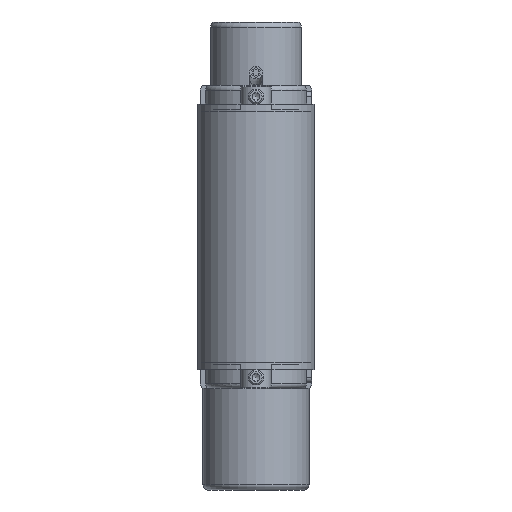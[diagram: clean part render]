
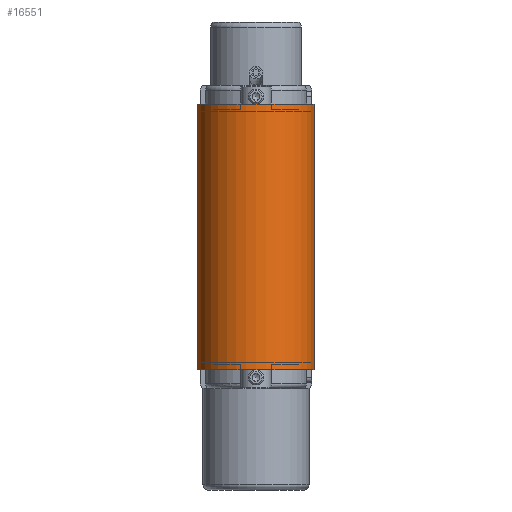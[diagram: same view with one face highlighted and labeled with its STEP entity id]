
A CAD part, front view. The second image highlights one B-rep face of the part: STEP entity #16551.
In plain terms, the highlighted cylindrical face has radius 23.3 mm (diameter 46.6 mm), a partial arc.
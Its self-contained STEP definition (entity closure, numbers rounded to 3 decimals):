
#1198=FACE_OUTER_BOUND('',#2113,.T.);
#2113=EDGE_LOOP('',(#11174,#11175,#11176,#11177));
#3162=LINE('',#24656,#4432);
#3163=LINE('',#24660,#4433);
#4432=VECTOR('',#19823,10.);
#4433=VECTOR('',#19828,10.);
#5649=CIRCLE('',#17631,23.3);
#5652=CIRCLE('',#17637,23.3);
#6634=VERTEX_POINT('',#24639);
#6635=VERTEX_POINT('',#24640);
#6640=VERTEX_POINT('',#24654);
#6641=VERTEX_POINT('',#24658);
#8393=EDGE_CURVE('',#6634,#6635,#5649,.T.);
#8401=EDGE_CURVE('',#6640,#6635,#3162,.T.);
#8402=EDGE_CURVE('',#6640,#6641,#5652,.T.);
#8403=EDGE_CURVE('',#6634,#6641,#3163,.T.);
#11174=ORIENTED_EDGE('',*,*,#8402,.T.);
#11175=ORIENTED_EDGE('',*,*,#8403,.F.);
#11176=ORIENTED_EDGE('',*,*,#8393,.T.);
#11177=ORIENTED_EDGE('',*,*,#8401,.F.);
#15272=CYLINDRICAL_SURFACE('',#17636,23.3);
#16551=ADVANCED_FACE('',(#1198),#15272,.T.);
#17631=AXIS2_PLACEMENT_3D('',#24641,#19808,#19809);
#17636=AXIS2_PLACEMENT_3D('',#24657,#19824,#19825);
#17637=AXIS2_PLACEMENT_3D('',#24659,#19826,#19827);
#19808=DIRECTION('center_axis',(0.,0.,
-1.));
#19809=DIRECTION('ref_axis',(-1.,0.,0.));
#19823=DIRECTION('',(0.,0.,1.));
#19824=DIRECTION('center_axis',(0.,0.,
-1.));
#19825=DIRECTION('ref_axis',(-1.,0.,0.));
#19826=DIRECTION('center_axis',(0.,0.,
1.));
#19827=DIRECTION('ref_axis',(-1.,0.,0.));
#19828=DIRECTION('',(0.,0.,-1.));
#24639=CARTESIAN_POINT('',(23.3,-1270.,52.5));
#24640=CARTESIAN_POINT('',(-23.3,-1270.,52.5));
#24641=CARTESIAN_POINT('Origin',(0.,-1270.,52.5));
#24654=CARTESIAN_POINT('',(-23.3,-1270.,-52.5));
#24656=CARTESIAN_POINT('',(-23.3,-1270.,0.));
#24657=CARTESIAN_POINT('Origin',(0.,-1270.,0.));
#24658=CARTESIAN_POINT('',(23.3,-1270.,-52.5));
#24659=CARTESIAN_POINT('Origin',(0.,-1270.,-52.5));
#24660=CARTESIAN_POINT('',(23.3,-1270.,0.));
